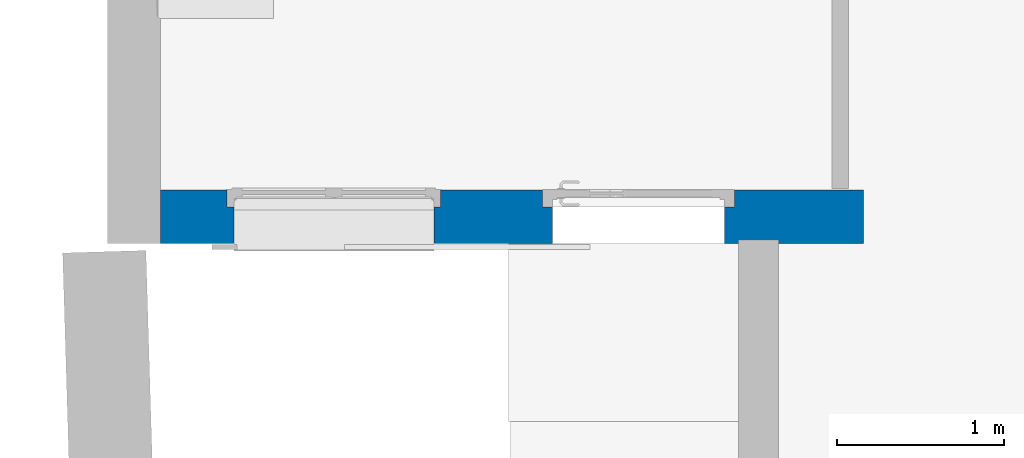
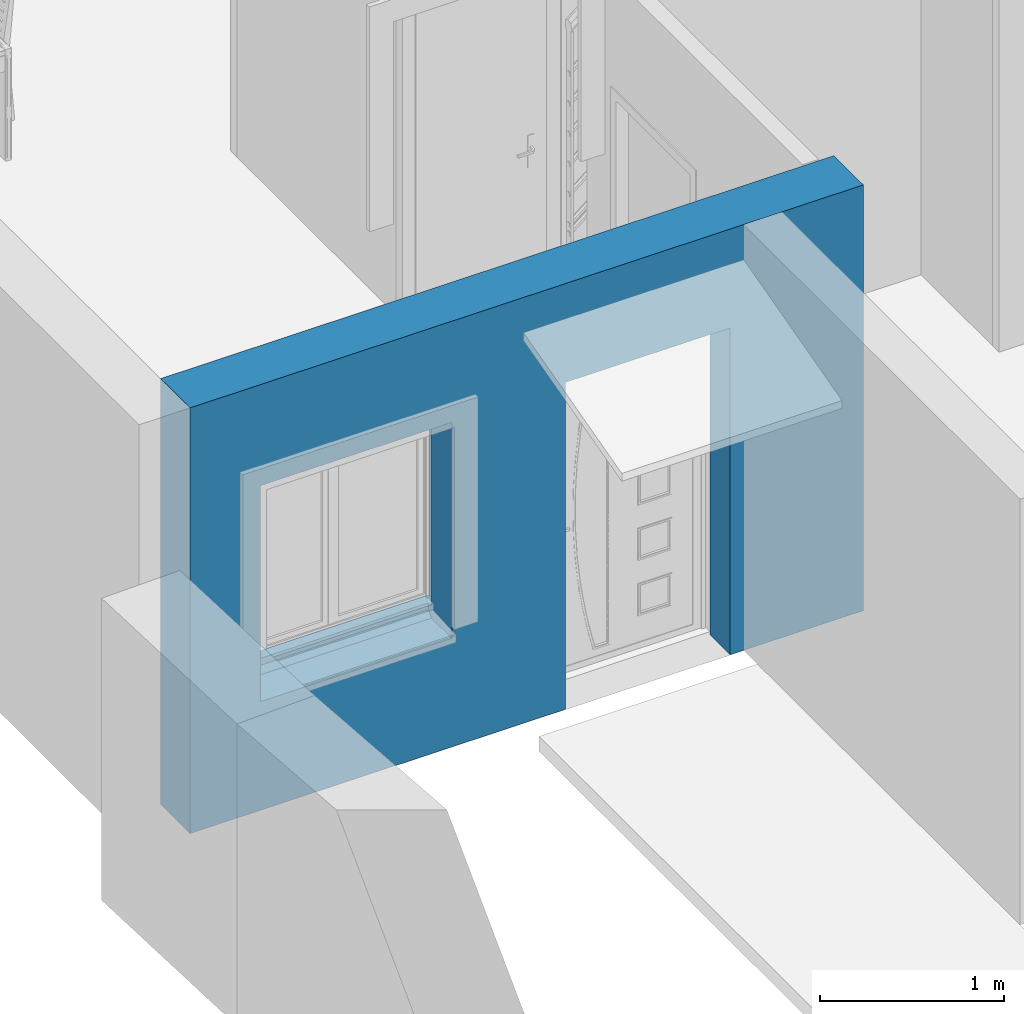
# One storey, part 4 of 33: 1 wall, 2 openings.
"""IFC2X3 building model written with IfcOpenShell, lengths in metres."""

from ifc_helpers import new_model, entity, si_unit, converted_unit, derived_unit, direction, frame, frame_2d, origin, place, context, subcontext, project, spatial, rectangle, extrude, faceted_brep, material, layer, layer_set, layer_usage, type_object, element, save


model = new_model("IFC2X3")

# Units and contexts
model_context = context("Model", 3, precision=1e-05, world=origin(), true_north=direction((6.12303176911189e-17, 1.0)))
context_of_model = context(None, 3, precision=1e-05, world=origin(), true_north=direction((6.12303176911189e-17, 1.0)))
body_context = subcontext(model_context, "Body", "Model", "MODEL_VIEW")
ifc_project = project(units=[si_unit("LENGTHUNIT", "METRE"), si_unit("AREAUNIT", "SQUARE_METRE"), si_unit("VOLUMEUNIT", "CUBIC_METRE"), converted_unit("PLANEANGLEUNIT", "DEGREE", entity("IfcRatioMeasure", 0.0174532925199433), si_unit("PLANEANGLEUNIT", "RADIAN"), dimensions=[0, 0, 0, 0, 0, 0, 0]), si_unit("MASSUNIT", "GRAM", prefix="KILO"), si_unit("TIMEUNIT", "SECOND"), si_unit("FREQUENCYUNIT", "HERTZ"), si_unit("THERMODYNAMICTEMPERATUREUNIT", "DEGREE_CELSIUS"), derived_unit("THERMALTRANSMITTANCEUNIT", [(si_unit("MASSUNIT", "GRAM", prefix="KILO"), 1), (si_unit("THERMODYNAMICTEMPERATUREUNIT", "KELVIN"), -1), (si_unit("TIMEUNIT", "SECOND"), -3)]), derived_unit("VOLUMETRICFLOWRATEUNIT", [(si_unit("LENGTHUNIT", "METRE"), 3), (si_unit("TIMEUNIT", "SECOND"), -1)]), si_unit("ELECTRICCURRENTUNIT", "AMPERE"), si_unit("ELECTRICVOLTAGEUNIT", "VOLT"), si_unit("POWERUNIT", "WATT"), si_unit("FORCEUNIT", "NEWTON", prefix="KILO"), si_unit("ILLUMINANCEUNIT", "LUX"), si_unit("LUMINOUSFLUXUNIT", "LUMEN"), si_unit("LUMINOUSINTENSITYUNIT", "CANDELA"), si_unit("PRESSUREUNIT", "PASCAL")], contexts=[model_context, context_of_model])

# Site, building, storey
site_placement = place(None, origin())
site = spatial("IfcSite", under=ifc_project, at=site_placement, Name="Surface", CompositionType="ELEMENT")
building_placement = place(site_placement, origin())
building = spatial("IfcBuilding", under=site, at=building_placement, CompositionType="ELEMENT")
storey_placement = place(building_placement, origin())
storey = spatial("IfcBuildingStorey", under=building, at=storey_placement, Name="Plan des fondations  Maisons 1 et 2", CompositionType="ELEMENT", Elevation=0.0)

# Wall, openings
ifc_material_1 = material(Name="Enduit blanc cassé2")
ifc_layer_1 = layer(ifc_material_1, 0.02)
ifc_material_2 = material(Name="Parpaing")
ifc_layer_2 = layer(ifc_material_2, 0.2)
ifc_material_3 = material(Name="Isolant")
ifc_layer_3 = layer(ifc_material_3, 0.1)
ifc_layer_set = layer_set([ifc_layer_1, ifc_layer_2, ifc_layer_3], Name="Mur de base:Ext. Parpaing 20 + Isolant 10 enduit blanc cassé")
ifc_layer_usage = layer_usage(ifc_layer_set, "AXIS2", "POSITIVE", -0.16)
wall_type = type_object("IfcWallType", Name="Mur de base:Ext. Parpaing 20 + Isolant 10 enduit blanc cassé", PredefinedType="STANDARD", material=ifc_layer_set)
wall_placement = place(storey_placement, frame((61.7063634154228, 80.0477566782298, 0.0)))
wall = element("IfcWallStandardCase", 1, at=wall_placement, inside=storey, type_object=wall_type, material=ifc_layer_usage, Name="Mur de base:Ext. Parpaing 20 + Isolant 10 enduit blanc cassé", ObjectType="Mur de base:Ext. Parpaing 20 + Isolant 10 enduit blanc cassé", context=body_context, shape_type="SweptSolid", body=[
    extrude(rectangle(XDim=4.21826294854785, YDim=0.319999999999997, at=frame_2d((2.10913147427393, 2.88657986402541e-15), x_axis=(-1.0, 0.0))), origin(), (0.0, 0.0, 1.0), 2.82),
])
opening_1_placement = place(wall_placement, frame((2.29326294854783, -0.5, 0.0)))
element("IfcOpeningElement", 2, at=opening_1_placement, cuts=wall, Name="Mur de base:Ext. Parpaing 20 + Isolant 10 enduit blanc cassé", ObjectType="Opening", context=body_context, shape_type="Brep", body=[
    faceted_brep([(0.060000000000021, 0.0, 0.0), (1.09000000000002, 0.0, 0.0), (1.09000000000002, 0.0, 2.16499999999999), (0.060000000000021, 0.0, 2.16499999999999), (0.0600000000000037, 1.0, 0.0), (0.0600000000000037, 1.0, 2.16499999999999), (1.09, 1.0, 2.16499999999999), (1.09, 1.0, 0.0), (0.0600000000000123, 0.560000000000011, 0.0), (0.0, 0.559999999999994, 0.0), (0.0, 0.910000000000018, 0.0), (0.0600000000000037, 0.910000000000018, 0.0), (1.09000000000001, 0.910000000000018, 0.0), (1.15000000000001, 0.910000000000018, 0.0), (1.15000000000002, 0.560000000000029, 0.0), (1.09000000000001, 0.560000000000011, 0.0), (1.09000000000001, 0.560000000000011, 2.16499999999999), (0.0600000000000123, 0.560000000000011, 2.16499999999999), (0.0, 0.910000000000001, 2.225), (1.15000000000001, 0.910000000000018, 2.225), (1.09000000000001, 0.910000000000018, 2.16499999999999), (0.0600000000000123, 0.910000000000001, 2.16499999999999), (0.0, 0.559999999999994, 2.225), (1.15000000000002, 0.560000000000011, 2.225)], [[[0, 1, 2, 3]], [[4, 5, 6, 7]], [[0, 8, 9, 10, 11, 4, 7, 12, 13, 14, 15, 1]], [[1, 15, 16, 2]], [[2, 16, 17, 3]], [[3, 17, 8, 0]], [[18, 19, 13, 12, 20, 21, 11, 10]], [[22, 9, 8, 17, 16, 15, 14, 23]], [[18, 22, 23, 19]], [[19, 23, 14, 13]], [[10, 9, 22, 18]], [[4, 11, 21, 5]], [[5, 21, 20, 6]], [[6, 20, 12, 7]]]),
])
opening_2_placement = place(wall_placement, frame((0.389999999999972, -0.499999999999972, 0.719999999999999)))
element("IfcOpeningElement", 3, at=opening_2_placement, cuts=wall, Name="Mur de base:Ext. Parpaing 20 + Isolant 10 enduit blanc cassé", ObjectType="Opening", context=body_context, shape_type="Brep", body=[
    faceted_brep([(1.24999999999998, 1.0, 1.43), (1.24999999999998, 1.0, 0.0799999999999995), (0.0499999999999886, 1.0, 0.0799999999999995), (0.0499999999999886, 1.0, 1.43), (1.25000000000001, 0.0, 1.43), (0.0500000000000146, 0.0, 1.43), (0.0500000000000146, 0.0, 0.0799999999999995), (1.25000000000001, 0.0, 0.0799999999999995), (0.0499999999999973, 0.673000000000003, 1.43), (1.25, 0.672999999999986, 1.43), (0.0499999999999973, 0.673000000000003, 0.0799999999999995), (1.25, 0.672999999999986, 0.0799999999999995), (1.28999999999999, 0.673000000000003, 0.0799999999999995), (1.28999999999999, 0.560000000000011, 0.0799999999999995), (1.24999999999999, 0.560000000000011, 0.0799999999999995), (1.24999999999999, 0.594999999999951, 0.0799999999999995), (0.0499999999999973, 0.594999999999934, 0.0799999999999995), (0.0499999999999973, 0.559999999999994, 0.0799999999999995), (0.00999999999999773, 0.559999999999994, 0.0799999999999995), (0.00999999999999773, 0.673000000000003, 0.0799999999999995), (0.00999999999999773, 0.672999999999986, 1.47), (1.28999999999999, 0.673000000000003, 1.47), (0.00999999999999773, 0.559999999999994, 1.47), (0.0499999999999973, 0.559999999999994, 1.43), (1.25, 0.559999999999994, 1.43), (1.28999999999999, 0.560000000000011, 1.47), (1.3, 0.559999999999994, 1.47), (1.3, 0.559999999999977, 1.65), (0.0, 0.559999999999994, 1.65), (0.0, 0.559999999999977, 1.47), (0.0, 0.692999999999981, 1.65), (0.0, 0.692999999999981, 1.47), (1.3, 0.692999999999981, 1.65), (1.3, 0.692999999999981, 1.47), (0.0499999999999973, 0.559999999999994, 0.0), (0.0499999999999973, 0.594999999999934, 0.034999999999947), (1.24999999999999, 0.594999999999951, 0.0349999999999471), (1.25, 0.559999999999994, 0.0), (0.0499999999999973, 0.294999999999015, 0.0799999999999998), (0.0499999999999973, 0.294999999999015, 0.0), (1.24999999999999, 0.294999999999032, 0.0), (1.25, 0.294999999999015, 0.0799999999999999)], [[[0, 1, 2, 3]], [[4, 5, 6, 7]], [[0, 3, 8, 9]], [[3, 2, 10, 8]], [[2, 1, 11, 12, 13, 14, 15, 16, 17, 18, 19, 10]], [[1, 0, 9, 11]], [[10, 19, 20, 21, 12, 11, 9, 8]], [[19, 18, 22, 20]], [[18, 17, 23, 24, 14, 13, 25, 26, 27, 28, 29, 22]], [[12, 21, 25, 13]], [[30, 31, 29, 28]], [[32, 27, 26, 33]], [[30, 28, 27, 32]], [[29, 31, 33, 26, 25, 21, 20, 22]], [[31, 30, 32, 33]], [[34, 35, 36, 37]], [[35, 16, 15, 36]], [[38, 39, 40, 41]], [[39, 34, 37, 40]], [[4, 7, 41, 40, 37, 36, 15, 14, 24]], [[7, 6, 38, 41]], [[6, 5, 23, 17, 16, 35, 34, 39, 38]], [[5, 4, 24, 23]]]),
])

save(model, "model.ifc")
